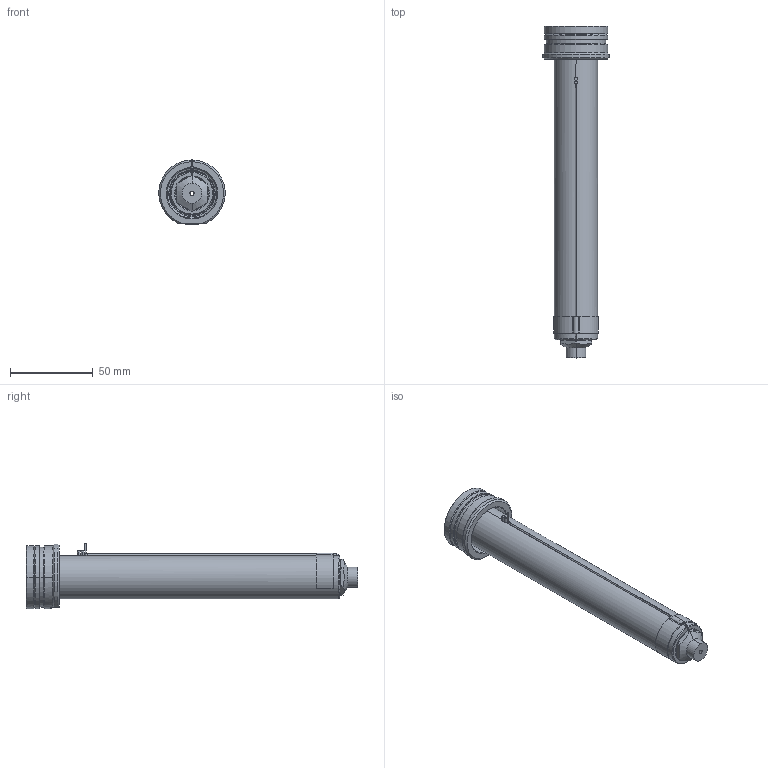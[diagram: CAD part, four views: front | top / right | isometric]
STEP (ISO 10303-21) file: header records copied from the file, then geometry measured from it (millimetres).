
FILE_DESCRIPTION((''),'2;1');
FILE_NAME('EO08_VG-FB_STD_180_SW','2024-02-19T13:29:53',('sundharh'),(''),'CREO PARAMETRIC BY PTC INC, 2023154','CREO PARAMETRIC BY PTC INC, 2023154','');
FILE_SCHEMA(('CONFIG_CONTROL_DESIGN'));
Length unit declared in the file: millimetre
Products named in the file (1): EO08_VG-FB_STD_180_SW
Bounding box: 39.88 x 200 x 39.52 mm (x, y, z)
Volume: 102455 mm3; surface area: 28121.9 mm2
Topology: 1 solids, 1 shells, 202 faces, 494 edges, 299 vertices
Faces by surface type: cylinder 72, plane 46, cone 41, torus 29, bspline 12, sphere 2
Entity records: 7371 total; most frequent: CARTESIAN_POINT 2513, DIRECTION 1089, ORIENTED_EDGE 980, EDGE_CURVE 490, AXIS2_PLACEMENT_3D 458, VERTEX_POINT 299, CIRCLE 268, EDGE_LOOP 219
